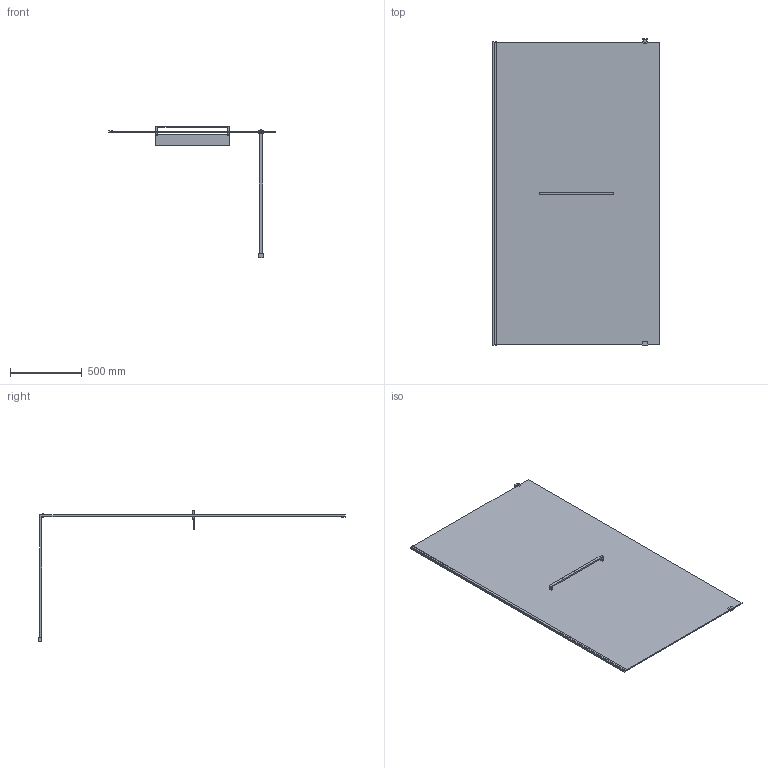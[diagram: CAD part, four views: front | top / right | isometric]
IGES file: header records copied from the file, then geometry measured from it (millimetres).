
Start section: SolidWorks IGES file using analytic representation for surfaces
Global section: file name: D:\Users\M.Szymanski\Desktop\Kabiny\PIII_ALTIIa\03. do przegrania\PIII_ALTIIa_120_z_relingiem_i_polka_K3D.IGS; native system: SolidWorks 2011; preprocessor: SolidWorks 2011; author: M.Szymanski; date: 181005.104312; units: millimetre
Bounding box: 1158.45 x 2128 x 914.13 mm (x, y, z)
Surface area: 5295424.5 mm2 (no closed solid volume)
Topology: 0 solids, 0 shells, 76 faces, 552 edges, 736 vertices
Faces by surface type: bspline 76
